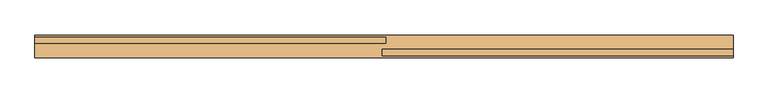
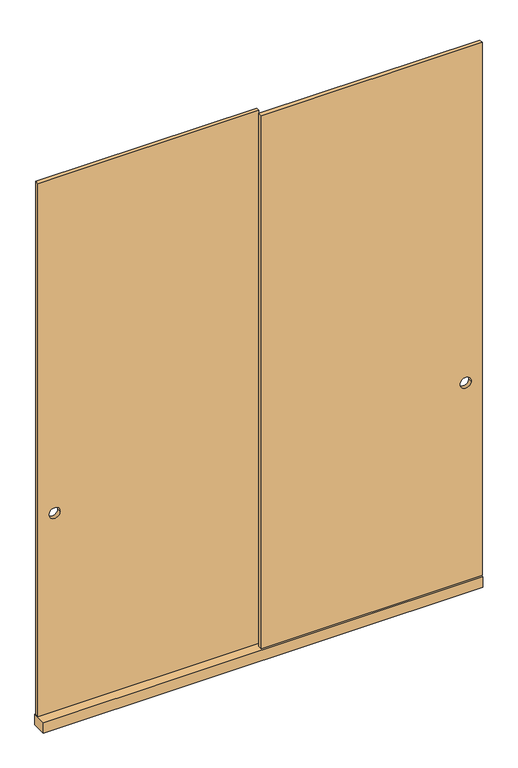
"""IFC4 building model written with IfcOpenShell, lengths in millimetres: door geometry, C4 Puerta corrediza placar 2 hojas : C4.2 PUERTA CORREDIZA PLACAR 2 HOJAS 198x260."""

import ifcopenshell
import ifcopenshell.guid

model = None  # the IFC model being written
_history = None  # IfcOwnerHistory: only IFC2X3 demands one
_inside = {}  # id of a spatial element -> (the spatial element, [elements in it])
_under = {}  # id of a project, library or spatial element -> (it, [spatial elements below it])
_declared = {}  # id of a project -> (the project, [libraries it declares])
_typed = {}  # id of a type object -> (the type object, [elements of that type])
_made_of = {}  # id of a material, layer set ... -> (it, [elements and type objects made of it])


def new_model(schema):
    """Start an empty IFC model of exactly this schema.

    Asked for "IFC4X3", IfcOpenShell would pick the latest addendum, in which some entities
    have other attributes; the version numbers below select the first issue.
    IFC2X3 requires an IfcOwnerHistory on every rooted entity: one is made here for all.
    """
    global model, _history
    if schema == "IFC4X3":
        model = ifcopenshell.file(schema_version=(4, 3, 0, 0))
    else:
        model = ifcopenshell.file(schema=schema)
    _inside.clear()
    _under.clear()
    _declared.clear()
    _typed.clear()
    _made_of.clear()
    _history = None
    if model.schema == "IFC2X3":
        org = make("IfcOrganization", Name="unknown")
        user = make(
            "IfcPersonAndOrganization",
            ThePerson=make("IfcPerson", FamilyName="unknown"),
            TheOrganization=org,
        )
        app = make(
            "IfcApplication",
            ApplicationDeveloper=org,
            Version="unknown",
            ApplicationFullName="unknown",
            ApplicationIdentifier="unknown",
        )
        _history = make(
            "IfcOwnerHistory",
            OwningUser=user,
            OwningApplication=app,
            ChangeAction="ADDED",
            CreationDate=0,
        )
    return model


def make(cls, **values):
    """One entity of the class cls with the attributes given. An attribute that is None is left unset."""
    return model.create_entity(
        cls, **{name: value for name, value in values.items() if value is not None}
    )


def rooted(cls, **values):
    """An entity with a GlobalId (a new one), such as an element, a storey or a relation."""
    return make(cls, GlobalId=ifcopenshell.guid.new(), OwnerHistory=_history, **values)


def si_unit(unit_type, name, prefix=None):
    """IfcSIUnit, for example si_unit("LENGTHUNIT", "METRE", prefix="MILLI")."""
    return make("IfcSIUnit", UnitType=unit_type, Prefix=prefix, Name=name)


def assignment(units):
    """IfcUnitAssignment: the units of a project."""
    return None if units is None else make("IfcUnitAssignment", Units=units)


def point(xyz):
    """IfcCartesianPoint."""
    return None if xyz is None else make("IfcCartesianPoint", Coordinates=xyz)


def direction(xyz):
    """IfcDirection."""
    return None if xyz is None else make("IfcDirection", DirectionRatios=xyz)


def frame(location, z_axis=None, x_axis=None):
    """IfcAxis2Placement3D, a coordinate frame: its origin and axes. An axis left out is left unset."""
    return make(
        "IfcAxis2Placement3D",
        Location=point(location),
        Axis=direction(z_axis),
        RefDirection=direction(x_axis),
    )


def frame_2d(location, x_axis=None):
    """IfcAxis2Placement2D, a coordinate frame in the plane: its origin and x axis."""
    return make(
        "IfcAxis2Placement2D", Location=point(location), RefDirection=direction(x_axis)
    )


def origin():
    """The frame at (0, 0, 0) with its axes left unset."""
    return frame((0.0, 0.0, 0.0))


def origin_with_axes():
    """The frame at (0, 0, 0) with the z axis (0, 0, 1) and the x axis (1, 0, 0) written out."""
    return frame((0.0, 0.0, 0.0), z_axis=(0.0, 0.0, 1.0), x_axis=(1.0, 0.0, 0.0))


def place(relative_to, where):
    """IfcLocalPlacement: puts the frame where relative to a parent placement (None: the world)."""
    return make(
        "IfcLocalPlacement", PlacementRelTo=relative_to, RelativePlacement=where
    )


def context(
    kind, dimensions, precision=None, world=None, true_north=None, identifier=None
):
    """IfcGeometricRepresentationContext, for example the 3D "Model" context."""
    return make(
        "IfcGeometricRepresentationContext",
        ContextIdentifier=identifier,
        ContextType=kind,
        CoordinateSpaceDimension=dimensions,
        Precision=precision,
        WorldCoordinateSystem=world,
        TrueNorth=true_north,
    )


def project(units=None, contexts=None):
    """IfcProject with its units and contexts."""
    return rooted(
        "IfcProject",
        Name="project",
        RepresentationContexts=contexts,
        UnitsInContext=assignment(units),
    )


def spatial(cls, under=None, at=None, **own):
    """A site, building, storey or space (cls), placed at a placement, below another one or the project."""
    s = rooted(cls, ObjectPlacement=at, **own)
    if under is not None:
        _under.setdefault(under.id(), (under, []))[1].append(s)
    return s


def polyline(points):
    """IfcPolyline through the points."""
    return make("IfcPolyline", Points=[point(p) for p in points])


def circle_curve(where, radius):
    """IfcCircle in the frame where."""
    return make("IfcCircle", Position=where, Radius=radius)


def trimmed(basis, trim1, trim2, sense, master):
    """IfcTrimmedCurve: the piece of a basis curve between two trims."""
    return make(
        "IfcTrimmedCurve",
        BasisCurve=basis,
        Trim1=trim1,
        Trim2=trim2,
        SenseAgreement=sense,
        MasterRepresentation=master,
    )


def segment(curve, same_sense, transition):
    """IfcCompositeCurveSegment."""
    return make(
        "IfcCompositeCurveSegment",
        Transition=transition,
        SameSense=same_sense,
        ParentCurve=curve,
    )


def composite_curve(segments, self_intersect=None):
    """IfcCompositeCurve: segments joined end to end."""
    return make("IfcCompositeCurve", Segments=segments, SelfIntersect=self_intersect)


def outline(outer, holes=None, kind="AREA"):
    """IfcArbitraryClosedProfileDef: a profile drawn as a closed curve; with holes, ...WithVoids."""
    if holes is None:
        return make("IfcArbitraryClosedProfileDef", ProfileType=kind, OuterCurve=outer)
    return make(
        "IfcArbitraryProfileDefWithVoids",
        ProfileType=kind,
        OuterCurve=outer,
        InnerCurves=holes,
    )


def extrude(swept, where, along, depth):
    """IfcExtrudedAreaSolid: the profile swept, set in the frame where, extruded along a direction by depth."""
    return make(
        "IfcExtrudedAreaSolid",
        SweptArea=swept,
        Position=where,
        ExtrudedDirection=direction(along),
        Depth=depth,
    )


def shape(context_of_items, identifier, shape_type, items):
    """IfcShapeRepresentation: the items that make up one representation, for example the "Body"."""
    return make(
        "IfcShapeRepresentation",
        ContextOfItems=context_of_items,
        RepresentationIdentifier=identifier,
        RepresentationType=shape_type,
        Items=items,
    )


def source(mapping_origin, context_of_items, identifier, shape_type, items):
    """IfcRepresentationMap: a shape defined once, which mapped items show again and again."""
    return make(
        "IfcRepresentationMap",
        MappingOrigin=mapping_origin,
        MappedRepresentation=shape(context_of_items, identifier, shape_type, items),
    )


def transform(
    local_origin,
    x_axis=None,
    y_axis=None,
    z_axis=None,
    scale=None,
    scale2=None,
    scale3=None,
    uniform=True,
):
    """IfcCartesianTransformationOperator3D, or its non-uniform kind. x_axis, y_axis, z_axis: its Axis1, 2, 3."""
    if uniform:
        return make(
            "IfcCartesianTransformationOperator3D",
            Axis1=direction(x_axis),
            Axis2=direction(y_axis),
            LocalOrigin=point(local_origin),
            Scale=scale,
            Axis3=direction(z_axis),
        )
    return make(
        "IfcCartesianTransformationOperator3DnonUniform",
        Axis1=direction(x_axis),
        Axis2=direction(y_axis),
        LocalOrigin=point(local_origin),
        Scale=scale,
        Axis3=direction(z_axis),
        Scale2=scale2,
        Scale3=scale3,
    )


def mapped(mapping_source, mapping_target):
    """IfcMappedItem: shows the shape of a source again, moved by a transform."""
    return make(
        "IfcMappedItem", MappingSource=mapping_source, MappingTarget=mapping_target
    )


def made_of(thing, what):
    """Note that an element or type object is made of a material, layer set ...; save() writes the relation."""
    if what is not None:
        _made_of.setdefault(what.id(), (what, []))[1].append(thing)
    return thing


def element(
    cls,
    number,
    at=None,
    inside=None,
    cuts=None,
    type_object=None,
    material=None,
    context=None,
    identifier="Body",
    shape_type=None,
    held_by="IfcProductDefinitionShape",
    body=None,
    shapes=None,
    **own,
):
    """One element of the class cls, such as IfcWall. Its Tag is "e" and its number.

    at: its placement. inside: the storey or other place that contains it. cuts: it is an
    opening in that element (IfcRelVoidsElement). A single representation is given by context,
    identifier, shape_type and body (its items); several are given by shapes. held_by: the class
    of the entity that holds the representations. save() writes the other relations.
    """
    e = rooted(cls, Tag="e%d" % number, ObjectPlacement=at, **own)
    if body is not None:
        shapes = [shape(context, identifier, shape_type, body)]
    if shapes is not None:
        e.Representation = make(held_by, Representations=shapes)
    if inside is not None:
        _inside.setdefault(inside.id(), (inside, []))[1].append(e)
    if cuts is not None:
        rooted(
            "IfcRelVoidsElement", RelatingBuildingElement=cuts, RelatedOpeningElement=e
        )
    if type_object is not None:
        _typed.setdefault(type_object.id(), (type_object, []))[1].append(e)
    return made_of(e, material)


def aggregate(whole, parts):
    """IfcRelAggregates: a whole, such as a stair, and the parts it consists of."""
    return rooted("IfcRelAggregates", RelatingObject=whole, RelatedObjects=parts)


def save(model, path):
    """Write the relations noted so far, then the file.

    IfcRelAggregates (storeys below a building ...), IfcRelContainedInSpatialStructure (elements
    in a storey), IfcRelDefinesByType, IfcRelAssociatesMaterial and IfcRelDeclares: one each for
    every whole, place, type object, material and project.
    """
    for whole, parts in _under.values():
        aggregate(whole, parts)
    for where, things in _inside.values():
        rooted(
            "IfcRelContainedInSpatialStructure",
            RelatedElements=things,
            RelatingStructure=where,
        )
    for kind, things in _typed.values():
        rooted("IfcRelDefinesByType", RelatedObjects=things, RelatingType=kind)
    for what, things in _made_of.values():
        rooted("IfcRelAssociatesMaterial", RelatedObjects=things, RelatingMaterial=what)
    for by, libraries in _declared.values():
        rooted("IfcRelDeclares", RelatingContext=by, RelatedDefinitions=libraries)
    model.write(path)


def door_82d90b9c(model_context):
    return source(origin(), model_context, "Body", "SweptSolid", [
        extrude(outline(polyline([(993.5, -32.5), (-993.5, -32.5), (-993.5, 32.5), (993.5, 32.5), (993.5, -32.5)])), origin_with_axes(), (0.0, 0.0, 1.0), 50.0),
        extrude(outline(polyline([(2600.0, -5.0), (54.0, -5.0), (54.0, 993.5), (2600.0, 993.5), (2600.0, -5.0)]), holes=[composite_curve([segment(trimmed(circle_curve(frame_2d((1000.0, 918.5)), 25.0), [point((1000.0, 893.5))], [point((1000.0, 943.5))], True, "CARTESIAN"), True, "CONTINUOUS"), segment(trimmed(circle_curve(frame_2d((1000.0, 918.5)), 25.0), [point((1000.0, 943.5))], [point((1000.0, 893.5))], True, "CARTESIAN"), True, "CONTINUOUS")], self_intersect=False)]), frame((0.0, -26.5, 0.0), z_axis=(0.0, 1.0, 0.0), x_axis=(0.0, 0.0, 1.0)), (0.0, 0.0, 1.0), 18.0),
        extrude(outline(polyline([(2600.0, 5.0), (2600.0, -993.5), (54.0, -993.5), (54.0, 5.0), (2600.0, 5.0)]), holes=[composite_curve([segment(trimmed(circle_curve(frame_2d((1000.0, -918.5)), 25.0), [point((1000.0, -943.5))], [point((1000.0, -893.5))], True, "CARTESIAN"), True, "CONTINUOUS"), segment(trimmed(circle_curve(frame_2d((1000.0, -918.5)), 25.0), [point((1000.0, -893.5))], [point((1000.0, -943.5))], True, "CARTESIAN"), True, "CONTINUOUS")], self_intersect=False)]), frame((0.0, 8.5, 0.0), z_axis=(0.0, 1.0, 0.0), x_axis=(0.0, 0.0, 1.0)), (0.0, 0.0, 1.0), 18.0),
    ])


if __name__ == "__main__":
    model = new_model("IFC4")
    model_context = context("Model", 3, world=origin())
    ifc_project = project(units=[si_unit("LENGTHUNIT", "METRE", prefix="MILLI")], contexts=[model_context])
    site = spatial("IfcSite", under=ifc_project)
    building = spatial("IfcBuilding", under=site)
    placement = place(None, origin())
    door_shape = door_82d90b9c(model_context)
    element("IfcDoor", 1, ObjectType="C4 Puerta corrediza placar 2 hojas : C4.2 PUERTA CORREDIZA PLACAR 2 HOJAS 198x260", at=placement, inside=building, context=model_context, shape_type="MappedRepresentation", body=[
        mapped(door_shape, transform((0.0, 0.0, 0.0), x_axis=(1.0, 0.0, 0.0), y_axis=(0.0, 1.0, 0.0), z_axis=(0.0, 0.0, 1.0))),
    ])
    save(model, "model.ifc")
